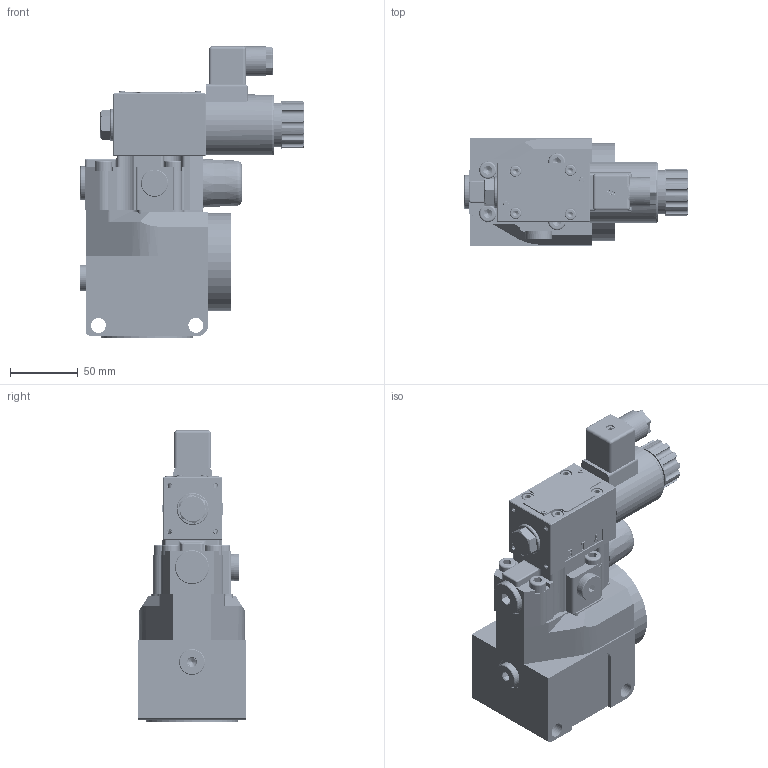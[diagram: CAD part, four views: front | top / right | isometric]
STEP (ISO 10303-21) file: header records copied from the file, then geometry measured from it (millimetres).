
FILE_DESCRIPTION(/* description */ (''),/* implementation_level */ '2;1');
FILE_NAME(/* name */ 'DBW...G-5XJ.stp',/* time_stamp */ '2024-07-09T07:48:16+08:00',/* author */ (''),/* organization */ (''),/* preprocessor_version */ 'ST-DEVELOPER v16.7',/* originating_system */ 'SIEMENS PLM Software NX 12.0',/* authorisation */ '');
FILE_SCHEMA (('AUTOMOTIVE_DESIGN { 1 0 10303 214 3 1 1 1 }'));
Products named in the file (1): DBW10...G-5XJ
Bounding box: 165.7 x 80 x 215 mm (x, y, z)
Volume: 765518.7 mm3; surface area: 246382.9 mm2
Topology: 68 solids, 72 shells, 2312 faces, 5725 edges, 3640 vertices
Faces by surface type: cylinder 1018, plane 768, cone 202, bspline 149, torus 107, extrusion 40, sphere 28
Full cylindrical faces by diameter (mm): 0.8 x1, 1 x2, 1.2 x1, 1.5 x3, 1.8 x4, 2 x6, 2.55 x20, 3 x50, 3.3 x1, 3.4 x63, 3.5 x1, 4 x4, 4.2 x10, 4.3 x48, 4.4 x4, 4.5 x1, 4.6 x2, 5 x147, 5.3 x4, 5.4 x1, 5.5 x2, 6 x4, 6.5 x1, 6.6 x2, 6.7 x48, 7 x1, 7.4 x1, 7.9 x1, 8 x14, 8.1 x1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
Entity records: 234679 total; most frequent: CARTESIAN_POINT 195146, DIRECTION 7605, ORIENTED_EDGE 7352, EDGE_CURVE 3676, AXIS2_PLACEMENT_3D 3117, EDGE_LOOP 2626, VERTEX_POINT 2595, ADVANCED_FACE 1875
